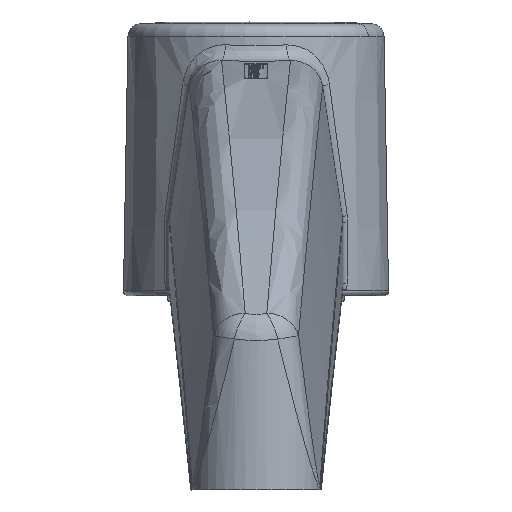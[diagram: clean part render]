
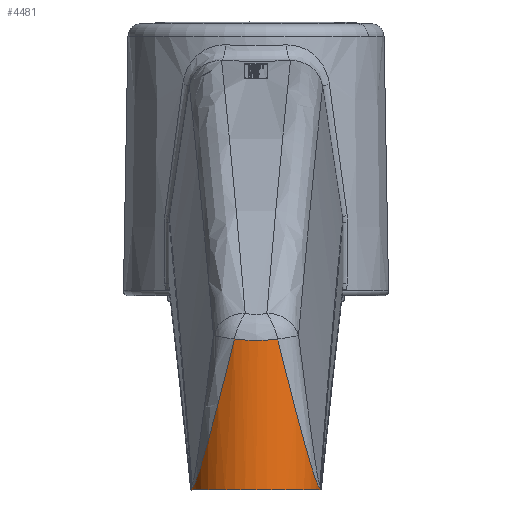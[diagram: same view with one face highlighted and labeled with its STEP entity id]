
A CAD part, front view. The second image highlights one B-rep face of the part: STEP entity #4481.
In plain terms, the highlighted cylindrical face has radius 20 mm (diameter 40 mm), a partial arc.
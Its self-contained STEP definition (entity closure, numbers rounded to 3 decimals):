
#3696=CARTESIAN_POINT('Vertex',(19.961,-226.243,0.)) ;
#3699=CARTESIAN_POINT('Axis2P3D Location',(0.,-225.,0.)) ;
#3703=CARTESIAN_POINT('Vertex',(-19.961,-226.243,0.)) ;
#4384=CARTESIAN_POINT('Axis2P3D Location',(0.,-225.,70.)) ;
#4390=CARTESIAN_POINT('Control Point',(6.663,-243.857,46.678)) ;
#4391=CARTESIAN_POINT('Control Point',(7.015,-243.733,45.256)) ;
#4392=CARTESIAN_POINT('Control Point',(7.368,-243.599,43.834)) ;
#4393=CARTESIAN_POINT('Control Point',(7.721,-243.455,42.415)) ;
#4394=CARTESIAN_POINT('Control Point',(8.785,-242.993,38.158)) ;
#4395=CARTESIAN_POINT('Control Point',(9.857,-242.431,33.917)) ;
#4396=CARTESIAN_POINT('Control Point',(10.575,-242.008,31.101)) ;
#4397=CARTESIAN_POINT('Control Point',(11.9,-241.13,25.96)) ;
#4398=CARTESIAN_POINT('Control Point',(13.251,-240.013,20.852)) ;
#4399=CARTESIAN_POINT('Control Point',(13.865,-239.452,18.563)) ;
#4400=CARTESIAN_POINT('Control Point',(14.891,-238.414,14.802)) ;
#4401=CARTESIAN_POINT('Control Point',(15.952,-237.091,11.083)) ;
#4402=CARTESIAN_POINT('Control Point',(16.366,-236.53,9.664)) ;
#4403=CARTESIAN_POINT('Control Point',(17.037,-235.535,7.419)) ;
#4404=CARTESIAN_POINT('Control Point',(17.739,-234.262,5.237)) ;
#4405=CARTESIAN_POINT('Control Point',(17.995,-233.759,4.468)) ;
#4406=CARTESIAN_POINT('Control Point',(18.407,-232.876,3.279)) ;
#4407=CARTESIAN_POINT('Control Point',(18.833,-231.753,2.202)) ;
#4408=CARTESIAN_POINT('Control Point',(18.988,-231.312,1.835)) ;
#4409=CARTESIAN_POINT('Control Point',(19.219,-230.577,1.337)) ;
#4410=CARTESIAN_POINT('Control Point',(19.435,-229.732,0.984)) ;
#4411=CARTESIAN_POINT('Control Point',(19.505,-229.437,0.885)) ;
#4412=CARTESIAN_POINT('Control Point',(19.689,-228.582,0.68)) ;
#4413=CARTESIAN_POINT('Control Point',(19.828,-227.711,0.687)) ;
#4414=CARTESIAN_POINT('Control Point',(19.89,-227.183,0.784)) ;
#4415=CARTESIAN_POINT('Control Point',(19.933,-226.696,0.936)) ;
#4416=CARTESIAN_POINT('Control Point',(19.961,-226.243,1.129)) ;
#4417=CARTESIAN_POINT('Vertex',(6.663,-243.857,46.678)) ;
#4419=CARTESIAN_POINT('Vertex',(19.961,-226.243,1.129)) ;
#4423=CARTESIAN_POINT('Control Point',(6.663,-243.857,46.678)) ;
#4424=CARTESIAN_POINT('Control Point',(4.124,-244.755,46.341)) ;
#4425=CARTESIAN_POINT('Control Point',(1.403,-245.237,46.158)) ;
#4426=CARTESIAN_POINT('Control Point',(-1.403,-245.237,46.158)) ;
#4427=CARTESIAN_POINT('Control Point',(-4.124,-244.755,46.341)) ;
#4428=CARTESIAN_POINT('Control Point',(-6.663,-243.857,46.678)) ;
#4429=CARTESIAN_POINT('Vertex',(-6.663,-243.857,46.678)) ;
#4433=CARTESIAN_POINT('Control Point',(-19.961,-226.243,1.129)) ;
#4434=CARTESIAN_POINT('Control Point',(-19.935,-226.665,0.949)) ;
#4435=CARTESIAN_POINT('Control Point',(-19.896,-227.117,0.805)) ;
#4436=CARTESIAN_POINT('Control Point',(-19.84,-227.605,0.707)) ;
#4437=CARTESIAN_POINT('Control Point',(-19.717,-228.419,0.674)) ;
#4438=CARTESIAN_POINT('Control Point',(-19.551,-229.232,0.831)) ;
#4439=CARTESIAN_POINT('Control Point',(-19.485,-229.522,0.913)) ;
#4440=CARTESIAN_POINT('Control Point',(-19.285,-230.341,1.213)) ;
#4441=CARTESIAN_POINT('Control Point',(-19.067,-231.067,1.66)) ;
#4442=CARTESIAN_POINT('Control Point',(-18.921,-231.501,1.993)) ;
#4443=CARTESIAN_POINT('Control Point',(-18.52,-232.604,2.975)) ;
#4444=CARTESIAN_POINT('Control Point',(-18.129,-233.475,4.077)) ;
#4445=CARTESIAN_POINT('Control Point',(-17.887,-233.971,4.792)) ;
#4446=CARTESIAN_POINT('Control Point',(-17.218,-235.236,6.837)) ;
#4447=CARTESIAN_POINT('Control Point',(-16.578,-236.222,8.952)) ;
#4448=CARTESIAN_POINT('Control Point',(-16.182,-236.781,10.293)) ;
#4449=CARTESIAN_POINT('Control Point',(-15.105,-238.18,14.031)) ;
#4450=CARTESIAN_POINT('Control Point',(-14.066,-239.261,17.818)) ;
#4451=CARTESIAN_POINT('Control Point',(-13.424,-239.862,20.202)) ;
#4452=CARTESIAN_POINT('Control Point',(-12.025,-241.041,25.476)) ;
#4453=CARTESIAN_POINT('Control Point',(-10.655,-241.959,30.787)) ;
#4454=CARTESIAN_POINT('Control Point',(-9.92,-242.397,33.668)) ;
#4455=CARTESIAN_POINT('Control Point',(-8.825,-242.974,37.998)) ;
#4456=CARTESIAN_POINT('Control Point',(-7.739,-243.448,42.345)) ;
#4457=CARTESIAN_POINT('Control Point',(-7.38,-243.595,43.788)) ;
#4458=CARTESIAN_POINT('Control Point',(-7.021,-243.731,45.232)) ;
#4459=CARTESIAN_POINT('Control Point',(-6.663,-243.857,46.678)) ;
#4460=CARTESIAN_POINT('Vertex',(-19.961,-226.243,1.129)) ;
#4463=CARTESIAN_POINT('Line Origine',(-19.961,-226.243,70.)) ;
#4468=CARTESIAN_POINT('Line Origine',(19.961,-226.243,70.)) ;
#3700=DIRECTION('Axis2P3D Direction',(0.,0.,1.)) ;
#4385=DIRECTION('Axis2P3D Direction',(0.,0.,1.)) ;
#4386=DIRECTION('Axis2P3D XDirection',(-0.998,-0.062,-0.)) ;
#4464=DIRECTION('Vector Direction',(0.,0.,1.)) ;
#4469=DIRECTION('Vector Direction',(0.,0.,1.)) ;
#3701=AXIS2_PLACEMENT_3D('Circle Axis2P3D',#3699,#3700,$) ;
#4387=AXIS2_PLACEMENT_3D('Cylinder Axis2P3D',#4384,#4385,#4386) ;
#4474=ORIENTED_EDGE('',*,*,#4421,.F.) ;
#4475=ORIENTED_EDGE('',*,*,#4431,.F.) ;
#4476=ORIENTED_EDGE('',*,*,#4462,.F.) ;
#4477=ORIENTED_EDGE('',*,*,#4467,.F.) ;
#4478=ORIENTED_EDGE('',*,*,#3705,.F.) ;
#4479=ORIENTED_EDGE('',*,*,#4472,.T.) ;
#4465=VECTOR('Line Direction',#4464,1.) ;
#4470=VECTOR('Line Direction',#4469,1.) ;
#4481=ADVANCED_FACE('PartBody',(#4480),#4388,.T.) ;
#4389=B_SPLINE_CURVE_WITH_KNOTS('',5,(#4390,#4391,#4392,#4393,#4394,#4395,#4396,#4397,#4398,#4399,#4400,#4401,#4402,#4403,#4404,#4405,#4406,#4407,#4408,#4409,#4410,#4411,#4412,#4413,#4414,#4415,#4416),.UNSPECIFIED.,.F.,.U.,(6,3,3,3,3,3,3,3,6),(23.371,34.285,56.142,74.248,85.784,92.365,96.007,97.847,101.19),.UNSPECIFIED.) ;
#4422=B_SPLINE_CURVE_WITH_KNOTS('',5,(#4423,#4424,#4425,#4426,#4427,#4428),.UNSPECIFIED.,.F.,.U.,(6,6),(66.259,81.521),.UNSPECIFIED.) ;
#4432=B_SPLINE_CURVE_WITH_KNOTS('',5,(#4433,#4434,#4435,#4436,#4437,#4438,#4439,#4440,#4441,#4442,#4443,#4444,#4445,#4446,#4447,#4448,#4449,#4450,#4451,#4452,#4453,#4454,#4455,#4456,#4457,#4458,#4459),.UNSPECIFIED.,.F.,.U.,(6,3,3,3,3,3,3,3,6),(114.613,117.731,119.505,122.926,129.097,140.045,158.967,181.332,192.423),.UNSPECIFIED.) ;
#3702=CIRCLE('generated circle',#3701,20.) ;
#4388=CYLINDRICAL_SURFACE('generated cylinder',#4387,20.) ;
#3705=EDGE_CURVE('',#3697,#3704,#3702,.F.) ;
#4421=EDGE_CURVE('',#4418,#4420,#4389,.T.) ;
#4431=EDGE_CURVE('',#4430,#4418,#4422,.F.) ;
#4462=EDGE_CURVE('',#4461,#4430,#4432,.T.) ;
#4467=EDGE_CURVE('',#3704,#4461,#4466,.T.) ;
#4472=EDGE_CURVE('',#3697,#4420,#4471,.T.) ;
#4473=EDGE_LOOP('',(#4474,#4475,#4476,#4477,#4478,#4479)) ;
#4480=FACE_OUTER_BOUND('',#4473,.T.) ;
#4466=LINE('Line',#4463,#4465) ;
#4471=LINE('Line',#4468,#4470) ;
#3697=VERTEX_POINT('',#3696) ;
#3704=VERTEX_POINT('',#3703) ;
#4418=VERTEX_POINT('',#4417) ;
#4420=VERTEX_POINT('',#4419) ;
#4430=VERTEX_POINT('',#4429) ;
#4461=VERTEX_POINT('',#4460) ;
